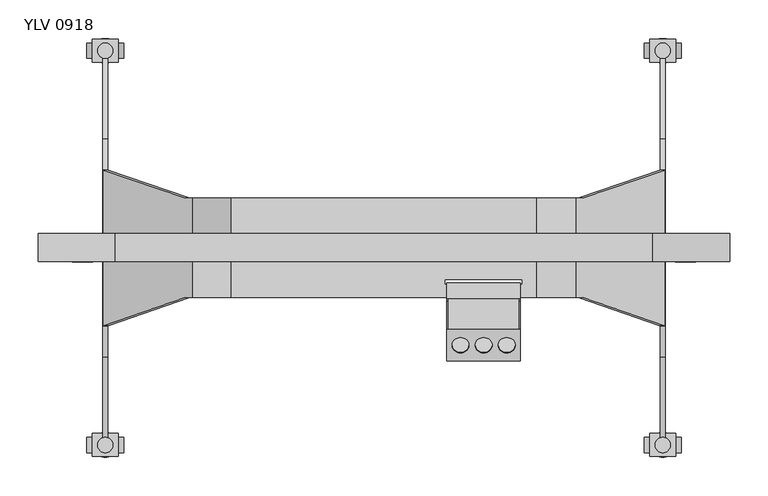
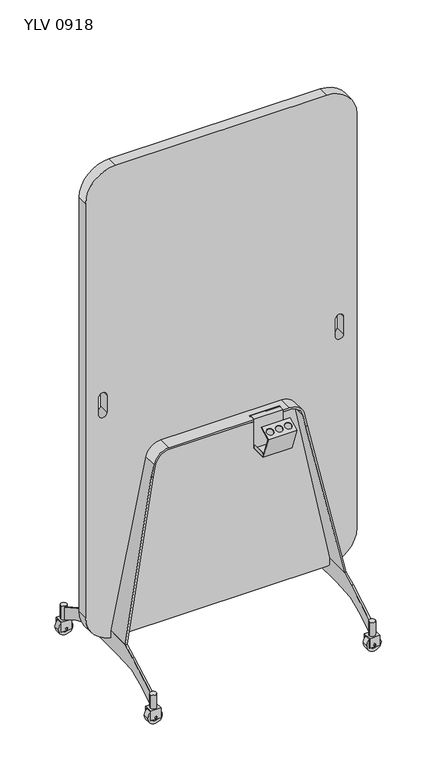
"""IFC4 building model written with IfcOpenShell, lengths in millimetres: furniture geometry, Mobiliário_Mobiliário de Escritório_LinhaYoung_Divisor Lousa Volante - YLV 0918_Marelli : YLV 0918."""

from ifc_helpers import new_model, si_unit, point, frame, frame_2d, origin, place, context, project, spatial, polyline, circle_curve, ellipse_curve, trimmed, segment, composite_curve, outline, extrude, source, transform, mapped, element, save
from ifc_brep_helpers import plane_surface, cylinder_surface, revolved_surface, advanced_brep


def ylv_0918_f138dd49(model_context):
    return source(origin(), model_context, "Body", "SolidModel", [
        extrude(outline(composite_curve([segment(trimmed(circle_curve(frame_2d((250.0, 800.0)), 100.0), [point((150.0, 800.0))], [point((250.0, 900.0))], False, "CARTESIAN"), True, "CONTINUOUS"), segment(polyline([(250.0, 900.0), (1700.0, 900.0)]), True, "CONTINUOUS"), segment(trimmed(circle_curve(frame_2d((1700.0, 800.0)), 100.0), [point((1700.0, 900.0))], [point((1800.0, 800.0))], False, "CARTESIAN"), True, "CONTINUOUS"), segment(polyline([(1800.0, 800.0), (1800.0, 100.0)]), True, "CONTINUOUS"), segment(trimmed(circle_curve(frame_2d((1700.0, 100.0)), 100.0), [point((1800.0, 100.0))], [point((1700.0, 0.0))], False, "CARTESIAN"), True, "CONTINUOUS"), segment(polyline([(1700.0, 0.0), (250.0, 0.0)]), True, "CONTINUOUS"), segment(trimmed(circle_curve(frame_2d((250.0, 100.0)), 100.0), [point((250.0, 0.0))], [point((150.0, 100.0))], False, "CARTESIAN"), True, "CONTINUOUS"), segment(polyline([(150.0, 100.0), (150.0, 800.0)]), True, "CONTINUOUS")], self_intersect=False), holes=[composite_curve([segment(trimmed(circle_curve(frame_2d((1004.6078371, 57.5)), 13.5), [point((1004.6078371, 44.0))], [point((1004.6078371, 71.0))], True, "CARTESIAN"), True, "CONTINUOUS"), segment(polyline([(1004.6078371, 71.0), (944.6078371, 71.0)]), True, "CONTINUOUS"), segment(trimmed(circle_curve(frame_2d((944.6078371, 57.5)), 13.5), [point((944.6078371, 71.0))], [point((944.6078371, 44.0))], True, "CARTESIAN"), True, "CONTINUOUS"), segment(polyline([(944.6078371, 44.0), (1004.6078371, 44.0)]), True, "CONTINUOUS")], self_intersect=False), composite_curve([segment(polyline([(1004.6078371, 856.0), (944.6078371, 856.0)]), True, "CONTINUOUS"), segment(trimmed(circle_curve(frame_2d((944.6078371, 842.5)), 13.5), [point((944.6078371, 856.0))], [point((944.6078371, 829.0))], True, "CARTESIAN"), True, "CONTINUOUS"), segment(polyline([(944.6078371, 829.0), (1004.6078371, 829.0)]), True, "CONTINUOUS"), segment(trimmed(circle_curve(frame_2d((1004.6078371, 842.5)), 13.5), [point((1004.6078371, 829.0))], [point((1004.6078371, 856.0))], True, "CARTESIAN"), True, "CONTINUOUS")], self_intersect=False)]), frame((0.0, -18.3158145, 0.0), z_axis=(0.0, 1.0, 0.0), x_axis=(0.0, 0.0, 1.0)), (0.0, 0.0, 1.0), 36.631629),
        extrude(outline(composite_curve([segment(polyline([(-142.6226909, 154.5892975), (-101.5349735, 176.0), (-18.3158145, 176.0), (-18.3158145, 150.0), (18.3158145, 150.0), (18.3158145, 176.0), (101.5349735, 176.0), (142.6226909, 154.5892975)]), True, "CONTINUOUS"), segment(trimmed(circle_curve(frame_2d((-859.6738473, -1768.8448754)), 2168.9161736), [point((142.6226909, 154.5892975))], [point((246.8924058, 96.5528022))], False, "CARTESIAN"), True, "CONTINUOUS"), segment(polyline([(246.8924058, 96.5528022), (246.8924058, 52.7598438)]), True, "CONTINUOUS"), segment(trimmed(circle_curve(frame_2d((-32.5386848, -345.4199526)), 486.4451508), [point((246.8924058, 52.7598438))], [point((136.8865532, 110.5668601))], True, "CARTESIAN"), True, "CONTINUOUS"), segment(trimmed(circle_curve(frame_2d((66.525728, -454.3601634)), 569.2918299), [point((136.8865532, 110.5668601))], [point((55.6013003, 114.8268397))], True, "CARTESIAN"), True, "CONTINUOUS"), segment(polyline([(55.6013003, 114.8268397), (-55.6013003, 114.8268397)]), True, "CONTINUOUS"), segment(trimmed(circle_curve(frame_2d((-66.525728, -454.3601634)), 569.2918299), [point((-55.6013003, 114.8268397))], [point((-136.8865532, 110.5668601))], True, "CARTESIAN"), True, "CONTINUOUS"), segment(trimmed(circle_curve(frame_2d((32.5386848, -345.4199526)), 486.4451508), [point((-136.8865532, 110.5668601))], [point((-246.8924058, 52.7598438))], True, "CARTESIAN"), True, "CONTINUOUS"), segment(polyline([(-246.8924058, 52.7598438), (-246.8924058, 96.5528022)]), True, "CONTINUOUS"), segment(trimmed(circle_curve(frame_2d((859.6738473, -1768.8448754)), 2168.9161736), [point((-246.8924058, 96.5528022))], [point((-142.6226909, 154.5892975))], False, "CARTESIAN"), True, "CONTINUOUS")], self_intersect=False)), frame((84.0, 0.0, 0.0), z_axis=(1.0, 0.0, 0.0), x_axis=(0.0, 1.0, 0.0)), (0.0, 0.0, 1.0), 6.122987),
        extrude(outline(composite_curve([segment(trimmed(circle_curve(frame_2d((812.9385065, 256.9155949)), 10.0231891), [point((802.9153174, 256.9155949))], [point((822.9616956, 256.9155949))], False, "CARTESIAN"), True, "CONTINUOUS"), segment(trimmed(circle_curve(frame_2d((812.9385065, 256.9155949)), 10.0231891), [point((822.9616956, 256.9155949))], [point((802.9153174, 256.9155949))], False, "CARTESIAN"), True, "CONTINUOUS")], self_intersect=False)), frame((0.0, 0.0, 51.0401028), z_axis=(0.0, 0.0, 1.0), x_axis=(1.0, 0.0, 0.0)), (0.0, 0.0, 1.0), 47.8824234),
        extrude(outline(composite_curve([segment(trimmed(circle_curve(frame_2d((812.9385065, -256.9155949)), 10.0231891), [point((802.9153174, -256.9155949))], [point((822.9616956, -256.9155949))], False, "CARTESIAN"), True, "CONTINUOUS"), segment(trimmed(circle_curve(frame_2d((812.9385065, -256.9155949)), 10.0231891), [point((822.9616956, -256.9155949))], [point((802.9153174, -256.9155949))], False, "CARTESIAN"), True, "CONTINUOUS")], self_intersect=False)), frame((0.0, 0.0, 51.0401028), z_axis=(0.0, 0.0, 1.0), x_axis=(1.0, 0.0, 0.0)), (0.0, 0.0, 1.0), 47.8824234),
        extrude(outline(composite_curve([segment(trimmed(circle_curve(frame_2d((87.0614935, 256.9155949)), 10.0231891), [point((97.0846826, 256.9155949))], [point((77.0383044, 256.9155949))], False, "CARTESIAN"), True, "CONTINUOUS"), segment(trimmed(circle_curve(frame_2d((87.0614935, 256.9155949)), 10.0231891), [point((77.0383044, 256.9155949))], [point((97.0846826, 256.9155949))], False, "CARTESIAN"), True, "CONTINUOUS")], self_intersect=False)), frame((0.0, 0.0, 51.0401028), z_axis=(0.0, 0.0, 1.0), x_axis=(1.0, 0.0, 0.0)), (0.0, 0.0, 1.0), 47.8824234),
        extrude(outline(composite_curve([segment(trimmed(circle_curve(frame_2d((87.0614935, -256.9155949)), 10.0231891), [point((97.0846826, -256.9155949))], [point((77.0383044, -256.9155949))], False, "CARTESIAN"), True, "CONTINUOUS"), segment(trimmed(circle_curve(frame_2d((87.0614935, -256.9155949)), 10.0231891), [point((77.0383044, -256.9155949))], [point((97.0846826, -256.9155949))], False, "CARTESIAN"), True, "CONTINUOUS")], self_intersect=False)), frame((0.0, 0.0, 51.0401028), z_axis=(0.0, 0.0, 1.0), x_axis=(1.0, 0.0, 0.0)), (0.0, 0.0, 1.0), 47.8824234),
        extrude(outline(polyline([(-269.7155949, 48.8401028), (-269.7155949, 17.3292423), (-271.9155949, 17.3292423), (-271.9155949, 51.0401028), (-241.9155949, 51.0401028), (-241.9155949, 17.3292423), (-244.1029428, 17.3292423), (-244.1029428, 48.8401028), (-269.7155949, 48.8401028)])), frame((70.0614935, 0.0, 0.0), z_axis=(1.0, 0.0, 0.0), x_axis=(0.0, 1.0, 0.0)), (0.0, 0.0, 1.0), 34.0),
        extrude(outline(polyline([(269.7155949, 48.8401028), (244.1029428, 48.8401028), (244.1029428, 17.3292423), (241.9155949, 17.3292423), (241.9155949, 51.0401028), (271.9155949, 51.0401028), (271.9155949, 17.3292423), (269.7155949, 17.3292423), (269.7155949, 48.8401028)])), frame((70.0614935, 0.0, 0.0), z_axis=(1.0, 0.0, 0.0), x_axis=(0.0, 1.0, 0.0)), (0.0, 0.0, 1.0), 34.0),
        extrude(outline(composite_curve([segment(polyline([(-142.6226909, 154.5892975), (-101.5349735, 176.0), (-18.3158145, 176.0), (-18.3158145, 150.0), (18.3158145, 150.0), (18.3158145, 176.0), (101.5349735, 176.0), (142.6226909, 154.5892975)]), True, "CONTINUOUS"), segment(trimmed(circle_curve(frame_2d((-859.6738473, -1768.8448754)), 2168.9161736), [point((142.6226909, 154.5892975))], [point((246.8924058, 96.5528022))], False, "CARTESIAN"), True, "CONTINUOUS"), segment(polyline([(246.8924058, 96.5528022), (246.8924058, 52.7598438)]), True, "CONTINUOUS"), segment(trimmed(circle_curve(frame_2d((-32.5386848, -345.4199526)), 486.4451508), [point((246.8924058, 52.7598438))], [point((136.8865532, 110.5668601))], True, "CARTESIAN"), True, "CONTINUOUS"), segment(trimmed(circle_curve(frame_2d((66.525728, -454.3601634)), 569.2918299), [point((136.8865532, 110.5668601))], [point((55.6013003, 114.8268397))], True, "CARTESIAN"), True, "CONTINUOUS"), segment(polyline([(55.6013003, 114.8268397), (-55.6013003, 114.8268397)]), True, "CONTINUOUS"), segment(trimmed(circle_curve(frame_2d((-66.525728, -454.3601634)), 569.2918299), [point((-55.6013003, 114.8268397))], [point((-136.8865532, 110.5668601))], True, "CARTESIAN"), True, "CONTINUOUS"), segment(trimmed(circle_curve(frame_2d((32.5386848, -345.4199526)), 486.4451508), [point((-136.8865532, 110.5668601))], [point((-246.8924058, 52.7598438))], True, "CARTESIAN"), True, "CONTINUOUS"), segment(polyline([(-246.8924058, 52.7598438), (-246.8924058, 96.5528022)]), True, "CONTINUOUS"), segment(trimmed(circle_curve(frame_2d((859.6738473, -1768.8448754)), 2168.9161736), [point((-246.8924058, 96.5528022))], [point((-142.6226909, 154.5892975))], False, "CARTESIAN"), True, "CONTINUOUS")], self_intersect=False)), frame((809.877013, 0.0, 0.0), z_axis=(1.0, 0.0, 0.0), x_axis=(0.0, 1.0, 0.0)), (0.0, 0.0, 1.0), 6.122987),
        extrude(outline(composite_curve([segment(trimmed(circle_curve(frame_2d((24.0, 87.0614935)), 24.0), [point((24.0, 63.0614935))], [point((24.0, 111.0614935))], False, "CARTESIAN"), True, "CONTINUOUS"), segment(trimmed(circle_curve(frame_2d((24.0, 87.0614935)), 24.0), [point((24.0, 111.0614935))], [point((24.0, 63.0614935))], False, "CARTESIAN"), True, "CONTINUOUS")], self_intersect=False), holes=[composite_curve([segment(trimmed(circle_curve(frame_2d((24.0, 87.0614935)), 14.0), [point((24.0, 73.0614935))], [point((24.0, 101.0614935))], True, "CARTESIAN"), True, "CONTINUOUS"), segment(trimmed(circle_curve(frame_2d((24.0, 87.0614935)), 14.0), [point((24.0, 101.0614935))], [point((24.0, 73.0614935))], True, "CARTESIAN"), True, "CONTINUOUS")], self_intersect=False)]), frame((0.0, -266.9155949, 0.0), z_axis=(0.0, 1.0, 0.0), x_axis=(0.0, 0.0, 1.0)), (0.0, 0.0, 1.0), 20.0),
        extrude(outline(composite_curve([segment(trimmed(circle_curve(frame_2d((24.0, 812.9385065)), 24.0), [point((24.0, 836.9385065))], [point((24.0, 788.9385065))], False, "CARTESIAN"), True, "CONTINUOUS"), segment(trimmed(circle_curve(frame_2d((24.0, 812.9385065)), 24.0), [point((24.0, 788.9385065))], [point((24.0, 836.9385065))], False, "CARTESIAN"), True, "CONTINUOUS")], self_intersect=False), holes=[composite_curve([segment(trimmed(circle_curve(frame_2d((24.0, 812.9385065)), 14.0), [point((24.0, 826.9385065))], [point((24.0, 798.9385065))], True, "CARTESIAN"), True, "CONTINUOUS"), segment(trimmed(circle_curve(frame_2d((24.0, 812.9385065)), 14.0), [point((24.0, 798.9385065))], [point((24.0, 826.9385065))], True, "CARTESIAN"), True, "CONTINUOUS")], self_intersect=False)]), frame((0.0, -266.9155949, 0.0), z_axis=(0.0, 1.0, 0.0), x_axis=(0.0, 0.0, 1.0)), (0.0, 0.0, 1.0), 20.0),
        extrude(outline(polyline([(-269.7155949, 48.8401028), (-269.7155949, 17.3292423), (-271.9155949, 17.3292423), (-271.9155949, 51.0401028), (-241.9155949, 51.0401028), (-241.9155949, 17.3292423), (-244.1029428, 17.3292423), (-244.1029428, 48.8401028), (-269.7155949, 48.8401028)])), frame((795.9385065, 0.0, 0.0), z_axis=(1.0, 0.0, 0.0), x_axis=(0.0, 1.0, 0.0)), (0.0, 0.0, 1.0), 34.0),
        extrude(outline(polyline([(269.7155949, 48.8401028), (244.1029428, 48.8401028), (244.1029428, 17.3292423), (241.9155949, 17.3292423), (241.9155949, 51.0401028), (271.9155949, 51.0401028), (271.9155949, 17.3292423), (269.7155949, 17.3292423), (269.7155949, 48.8401028)])), frame((795.9385065, 0.0, 0.0), z_axis=(1.0, 0.0, 0.0), x_axis=(0.0, 1.0, 0.0)), (0.0, 0.0, 1.0), 34.0),
        extrude(outline(composite_curve([segment(trimmed(circle_curve(frame_2d((24.0, 87.0614935)), 24.0), [point((24.0, 63.0614935))], [point((24.0, 111.0614935))], False, "CARTESIAN"), True, "CONTINUOUS"), segment(trimmed(circle_curve(frame_2d((24.0, 87.0614935)), 24.0), [point((24.0, 111.0614935))], [point((24.0, 63.0614935))], False, "CARTESIAN"), True, "CONTINUOUS")], self_intersect=False), holes=[composite_curve([segment(trimmed(circle_curve(frame_2d((24.0, 87.0614935)), 14.0), [point((24.0, 73.0614935))], [point((24.0, 101.0614935))], True, "CARTESIAN"), True, "CONTINUOUS"), segment(trimmed(circle_curve(frame_2d((24.0, 87.0614935)), 14.0), [point((24.0, 101.0614935))], [point((24.0, 73.0614935))], True, "CARTESIAN"), True, "CONTINUOUS")], self_intersect=False)]), frame((0.0, 246.9155949, 0.0), z_axis=(0.0, 1.0, 0.0), x_axis=(0.0, 0.0, 1.0)), (0.0, 0.0, 1.0), 20.0),
        extrude(outline(composite_curve([segment(trimmed(circle_curve(frame_2d((24.0, 812.9385065)), 24.0), [point((24.0, 836.9385065))], [point((24.0, 788.9385065))], False, "CARTESIAN"), True, "CONTINUOUS"), segment(trimmed(circle_curve(frame_2d((24.0, 812.9385065)), 24.0), [point((24.0, 788.9385065))], [point((24.0, 836.9385065))], False, "CARTESIAN"), True, "CONTINUOUS")], self_intersect=False), holes=[composite_curve([segment(trimmed(circle_curve(frame_2d((24.0, 812.9385065)), 14.0), [point((24.0, 826.9385065))], [point((24.0, 798.9385065))], True, "CARTESIAN"), True, "CONTINUOUS"), segment(trimmed(circle_curve(frame_2d((24.0, 812.9385065)), 14.0), [point((24.0, 798.9385065))], [point((24.0, 826.9385065))], True, "CARTESIAN"), True, "CONTINUOUS")], self_intersect=False)]), frame((0.0, 246.9155949, 0.0), z_axis=(0.0, 1.0, 0.0), x_axis=(0.0, 0.0, 1.0)), (0.0, 0.0, 1.0), 20.0),
        advanced_brep(
        [(87.0614935, 271.9155949, 18.43548), (87.0614935, 271.9155949, 29.56452), (87.0614935, 272.7646721, 24.0), (87.0614935, 271.9155949, 24.0)],
        [
            (0, 1, circle_curve(frame((87.0614935, 271.9155949, 24.0), z_axis=(0.0, 1.0, 0.0), x_axis=(0.0, 0.0, 1.0)), 5.56452)),
            (1, 2, circle_curve(frame((87.0614935, 257.0883533, 24.4550261), z_axis=(-1.0, 0.0, 0.0), x_axis=(0.0, 1.0, 0.0)), 15.6829213)),
            (2, 0, circle_curve(frame((87.0614935, 257.0883533, 23.5449739), z_axis=(-1.0, 0.0, 0.0), x_axis=(0.0, 1.0, 0.0)), 15.6829213)),
            (1, 0, circle_curve(frame((87.0614935, 271.9155949, 24.0), z_axis=(0.0, 1.0, 0.0), x_axis=(0.0, 0.0, 1.0)), 5.56452)),
            (3, 1),
            (0, 3),
        ],
        [
            revolved_surface(trimmed(ellipse_curve(frame((87.0614935, 257.0883533, 24.4550261), z_axis=(1.0, 0.0, 0.0), x_axis=(0.0, 1.0, 0.0)), 15.6829213, 15.6829213), [point((87.0614935, 272.7646721, 24.0))], [point((87.0614935, 271.9155949, 29.56452))], True, "CARTESIAN"), (87.0614935, 272.7646721, 24.0), (0.0, -1.0, 0.0)),
            plane_surface(frame((87.0614935, 271.9155949, 24.0), z_axis=(0.0, -1.0, 0.0), x_axis=(0.0, 0.0, 1.0))),
        ],
        [
            (0, [[1, 2, 3]]),
            (0, [[4, -3, -2]]),
            (1, [[5, -1, 6]]),
            (1, [[-6, -4, -5]]),
        ],
    ),
        advanced_brep(
        [(812.9385065, 271.9155949, 18.43548), (812.9385065, 271.9155949, 29.56452), (812.9385065, 272.7646721, 24.0), (812.9385065, 271.9155949, 24.0)],
        [
            (0, 1, circle_curve(frame((812.9385065, 271.9155949, 24.0), z_axis=(0.0, 1.0, 0.0), x_axis=(0.0, 0.0, 1.0)), 5.56452)),
            (1, 2, circle_curve(frame((812.9385065, 257.0883533, 24.4550261), z_axis=(-1.0, 0.0, 0.0), x_axis=(0.0, 1.0, 0.0)), 15.6829213)),
            (2, 0, circle_curve(frame((812.9385065, 257.0883533, 23.5449739), z_axis=(-1.0, 0.0, 0.0), x_axis=(0.0, 1.0, 0.0)), 15.6829213)),
            (1, 0, circle_curve(frame((812.9385065, 271.9155949, 24.0), z_axis=(0.0, 1.0, 0.0), x_axis=(0.0, 0.0, 1.0)), 5.56452)),
            (3, 1),
            (0, 3),
        ],
        [
            revolved_surface(trimmed(ellipse_curve(frame((812.9385065, 257.0883533, 24.4550261), z_axis=(1.0, 0.0, 0.0), x_axis=(0.0, 1.0, 0.0)), 15.6829213, 15.6829213), [point((812.9385065, 272.7646721, 24.0))], [point((812.9385065, 271.9155949, 29.56452))], True, "CARTESIAN"), (812.9385065, 272.7646721, 24.0), (0.0, -1.0, 0.0)),
            plane_surface(frame((812.9385065, 271.9155949, 24.0), z_axis=(0.0, -1.0, 0.0), x_axis=(0.0, 0.0, 1.0))),
        ],
        [
            (0, [[1, 2, 3]]),
            (0, [[4, -3, -2]]),
            (1, [[5, -1, 6]]),
            (1, [[-6, -4, -5]]),
        ],
    ),
        advanced_brep(
        [(87.0614935, 241.0665176, 24.0), (87.0614935, 241.9155949, 29.56452), (87.0614935, 241.9155949, 18.43548), (87.0614935, 241.9155949, 24.0)],
        [
            (0, 1, circle_curve(frame((87.0614935, 256.7428364, 24.4550261), z_axis=(-1.0, 0.0, 0.0), x_axis=(0.0, -1.0, 0.0)), 15.6829213)),
            (1, 2, circle_curve(frame((87.0614935, 241.9155949, 24.0), z_axis=(0.0, -1.0, 0.0), x_axis=(0.0, 0.0, 1.0)), 5.56452)),
            (2, 0, circle_curve(frame((87.0614935, 256.7428364, 23.5449739), z_axis=(-1.0, 0.0, 0.0), x_axis=(0.0, -1.0, 0.0)), 15.6829213)),
            (2, 1, circle_curve(frame((87.0614935, 241.9155949, 24.0), z_axis=(0.0, -1.0, 0.0), x_axis=(0.0, 0.0, 1.0)), 5.56452)),
            (1, 3),
            (3, 2),
        ],
        [
            revolved_surface(trimmed(ellipse_curve(frame((87.0614935, 256.7428364, 24.4550261), z_axis=(1.0, 0.0, 0.0), x_axis=(0.0, -1.0, 0.0)), 15.6829213, 15.6829213), [point((87.0614935, 241.9155949, 29.56452))], [point((87.0614935, 241.0665176, 24.0))], True, "CARTESIAN"), (87.0614935, 241.0665176, 24.0), (0.0, -1.0, 0.0)),
            plane_surface(frame((87.0614935, 241.9155949, 24.0), z_axis=(0.0, 1.0, 0.0), x_axis=(0.0, 0.0, 1.0))),
        ],
        [
            (0, [[1, 2, 3]]),
            (0, [[-3, 4, -1]]),
            (1, [[-2, 5, 6]]),
            (1, [[-4, -6, -5]]),
        ],
    ),
        advanced_brep(
        [(812.9385065, 241.0665176, 24.0), (812.9385065, 241.9155949, 29.56452), (812.9385065, 241.9155949, 18.43548), (812.9385065, 241.9155949, 24.0)],
        [
            (0, 1, circle_curve(frame((812.9385065, 256.7428364, 24.4550261), z_axis=(-1.0, 0.0, 0.0), x_axis=(0.0, -1.0, 0.0)), 15.6829213)),
            (1, 2, circle_curve(frame((812.9385065, 241.9155949, 24.0), z_axis=(0.0, -1.0, 0.0), x_axis=(0.0, 0.0, 1.0)), 5.56452)),
            (2, 0, circle_curve(frame((812.9385065, 256.7428364, 23.5449739), z_axis=(-1.0, 0.0, 0.0), x_axis=(0.0, -1.0, 0.0)), 15.6829213)),
            (2, 1, circle_curve(frame((812.9385065, 241.9155949, 24.0), z_axis=(0.0, -1.0, 0.0), x_axis=(0.0, 0.0, 1.0)), 5.56452)),
            (1, 3),
            (3, 2),
        ],
        [
            revolved_surface(trimmed(ellipse_curve(frame((812.9385065, 256.7428364, 24.4550261), z_axis=(1.0, 0.0, 0.0), x_axis=(0.0, -1.0, 0.0)), 15.6829213, 15.6829213), [point((812.9385065, 241.9155949, 29.56452))], [point((812.9385065, 241.0665176, 24.0))], True, "CARTESIAN"), (812.9385065, 241.0665176, 24.0), (0.0, -1.0, 0.0)),
            plane_surface(frame((812.9385065, 241.9155949, 24.0), z_axis=(0.0, 1.0, 0.0), x_axis=(0.0, 0.0, 1.0))),
        ],
        [
            (0, [[1, 2, 3]]),
            (0, [[-3, 4, -1]]),
            (1, [[-2, 5, 6]]),
            (1, [[-4, -6, -5]]),
        ],
    ),
        advanced_brep(
        [(87.0614935, -272.7646721, 24.0), (87.0614935, -271.9155949, 29.56452), (87.0614935, -271.9155949, 18.43548), (87.0614935, -271.9155949, 24.0)],
        [
            (0, 1, circle_curve(frame((87.0614935, -257.0883533, 24.4550261), z_axis=(-1.0, 0.0, 0.0), x_axis=(0.0, -1.0, 0.0)), 15.6829213)),
            (1, 2, circle_curve(frame((87.0614935, -271.9155949, 24.0), z_axis=(0.0, -1.0, 0.0), x_axis=(0.0, 0.0, 1.0)), 5.56452)),
            (2, 0, circle_curve(frame((87.0614935, -257.0883533, 23.5449739), z_axis=(-1.0, 0.0, 0.0), x_axis=(0.0, -1.0, 0.0)), 15.6829213)),
            (2, 1, circle_curve(frame((87.0614935, -271.9155949, 24.0), z_axis=(0.0, -1.0, 0.0), x_axis=(0.0, 0.0, 1.0)), 5.56452)),
            (1, 3),
            (3, 2),
        ],
        [
            revolved_surface(trimmed(ellipse_curve(frame((87.0614935, -257.0883533, 24.4550261), z_axis=(1.0, 0.0, 0.0), x_axis=(0.0, -1.0, 0.0)), 15.6829213, 15.6829213), [point((87.0614935, -271.9155949, 29.56452))], [point((87.0614935, -272.7646721, 24.0))], True, "CARTESIAN"), (87.0614935, -272.7646721, 24.0), (0.0, -1.0, 0.0)),
            plane_surface(frame((87.0614935, -271.9155949, 24.0), z_axis=(0.0, 1.0, 0.0), x_axis=(0.0, 0.0, 1.0))),
        ],
        [
            (0, [[1, 2, 3]]),
            (0, [[-3, 4, -1]]),
            (1, [[-2, 5, 6]]),
            (1, [[-4, -6, -5]]),
        ],
    ),
        advanced_brep(
        [(812.9385065, -272.7646721, 24.0), (812.9385065, -271.9155949, 29.56452), (812.9385065, -271.9155949, 18.43548), (812.9385065, -271.9155949, 24.0)],
        [
            (0, 1, circle_curve(frame((812.9385065, -257.0883533, 24.4550261), z_axis=(-1.0, 0.0, 0.0), x_axis=(0.0, -1.0, 0.0)), 15.6829213)),
            (1, 2, circle_curve(frame((812.9385065, -271.9155949, 24.0), z_axis=(0.0, -1.0, 0.0), x_axis=(0.0, 0.0, 1.0)), 5.56452)),
            (2, 0, circle_curve(frame((812.9385065, -257.0883533, 23.5449739), z_axis=(-1.0, 0.0, 0.0), x_axis=(0.0, -1.0, 0.0)), 15.6829213)),
            (2, 1, circle_curve(frame((812.9385065, -271.9155949, 24.0), z_axis=(0.0, -1.0, 0.0), x_axis=(0.0, 0.0, 1.0)), 5.56452)),
            (1, 3),
            (3, 2),
        ],
        [
            revolved_surface(trimmed(ellipse_curve(frame((812.9385065, -257.0883533, 24.4550261), z_axis=(1.0, 0.0, 0.0), x_axis=(0.0, -1.0, 0.0)), 15.6829213, 15.6829213), [point((812.9385065, -271.9155949, 29.56452))], [point((812.9385065, -272.7646721, 24.0))], True, "CARTESIAN"), (812.9385065, -272.7646721, 24.0), (0.0, -1.0, 0.0)),
            plane_surface(frame((812.9385065, -271.9155949, 24.0), z_axis=(0.0, 1.0, 0.0), x_axis=(0.0, 0.0, 1.0))),
        ],
        [
            (0, [[1, 2, 3]]),
            (0, [[-3, 4, -1]]),
            (1, [[-2, 5, 6]]),
            (1, [[-4, -6, -5]]),
        ],
    ),
        advanced_brep(
        [(87.0614935, -241.9155949, 18.43548), (87.0614935, -241.9155949, 29.56452), (87.0614935, -241.0665176, 24.0), (87.0614935, -241.9155949, 24.0)],
        [
            (0, 1, circle_curve(frame((87.0614935, -241.9155949, 24.0), z_axis=(0.0, 1.0, 0.0), x_axis=(0.0, 0.0, 1.0)), 5.56452)),
            (1, 2, circle_curve(frame((87.0614935, -256.7428364, 24.4550261), z_axis=(-1.0, 0.0, 0.0), x_axis=(0.0, 1.0, 0.0)), 15.6829213)),
            (2, 0, circle_curve(frame((87.0614935, -256.7428364, 23.5449739), z_axis=(-1.0, 0.0, 0.0), x_axis=(0.0, 1.0, 0.0)), 15.6829213)),
            (1, 0, circle_curve(frame((87.0614935, -241.9155949, 24.0), z_axis=(0.0, 1.0, 0.0), x_axis=(0.0, 0.0, 1.0)), 5.56452)),
            (3, 1),
            (0, 3),
        ],
        [
            revolved_surface(trimmed(ellipse_curve(frame((87.0614935, -256.7428364, 24.4550261), z_axis=(1.0, 0.0, 0.0), x_axis=(0.0, 1.0, 0.0)), 15.6829213, 15.6829213), [point((87.0614935, -241.0665176, 24.0))], [point((87.0614935, -241.9155949, 29.56452))], True, "CARTESIAN"), (87.0614935, -241.0665176, 24.0), (0.0, -1.0, 0.0)),
            plane_surface(frame((87.0614935, -241.9155949, 24.0), z_axis=(0.0, -1.0, 0.0), x_axis=(0.0, 0.0, 1.0))),
        ],
        [
            (0, [[1, 2, 3]]),
            (0, [[4, -3, -2]]),
            (1, [[5, -1, 6]]),
            (1, [[-6, -4, -5]]),
        ],
    ),
        advanced_brep(
        [(812.9385065, -241.9155949, 18.43548), (812.9385065, -241.9155949, 29.56452), (812.9385065, -241.0665176, 24.0), (812.9385065, -241.9155949, 24.0)],
        [
            (0, 1, circle_curve(frame((812.9385065, -241.9155949, 24.0), z_axis=(0.0, 1.0, 0.0), x_axis=(0.0, 0.0, 1.0)), 5.56452)),
            (1, 2, circle_curve(frame((812.9385065, -256.7428364, 24.4550261), z_axis=(-1.0, 0.0, 0.0), x_axis=(0.0, 1.0, 0.0)), 15.6829213)),
            (2, 0, circle_curve(frame((812.9385065, -256.7428364, 23.5449739), z_axis=(-1.0, 0.0, 0.0), x_axis=(0.0, 1.0, 0.0)), 15.6829213)),
            (1, 0, circle_curve(frame((812.9385065, -241.9155949, 24.0), z_axis=(0.0, 1.0, 0.0), x_axis=(0.0, 0.0, 1.0)), 5.56452)),
            (3, 1),
            (0, 3),
        ],
        [
            revolved_surface(trimmed(ellipse_curve(frame((812.9385065, -256.7428364, 24.4550261), z_axis=(1.0, 0.0, 0.0), x_axis=(0.0, 1.0, 0.0)), 15.6829213, 15.6829213), [point((812.9385065, -241.0665176, 24.0))], [point((812.9385065, -241.9155949, 29.56452))], True, "CARTESIAN"), (812.9385065, -241.0665176, 24.0), (0.0, -1.0, 0.0)),
            plane_surface(frame((812.9385065, -241.9155949, 24.0), z_axis=(0.0, -1.0, 0.0), x_axis=(0.0, 0.0, 1.0))),
        ],
        [
            (0, [[1, 2, 3]]),
            (0, [[4, -3, -2]]),
            (1, [[5, -1, 6]]),
            (1, [[-6, -4, -5]]),
        ],
    ),
        extrude(outline(composite_curve([segment(trimmed(circle_curve(frame_2d((24.0, 87.0614935)), 2.9989542), [point((24.0, 84.0625393))], [point((24.0, 90.0604477))], False, "CARTESIAN"), True, "CONTINUOUS"), segment(trimmed(circle_curve(frame_2d((24.0, 87.0614935)), 2.9989542), [point((24.0, 90.0604477))], [point((24.0, 84.0625393))], False, "CARTESIAN"), True, "CONTINUOUS")], self_intersect=False)), frame((0.0, -269.7155949, 0.0), z_axis=(0.0, 1.0, 0.0), x_axis=(0.0, 0.0, 1.0)), (0.0, 0.0, 1.0), 25.6126521),
        extrude(outline(composite_curve([segment(trimmed(circle_curve(frame_2d((24.0, 87.0614935)), 2.9989542), [point((24.0, 84.0625393))], [point((24.0, 90.0604477))], False, "CARTESIAN"), True, "CONTINUOUS"), segment(trimmed(circle_curve(frame_2d((24.0, 87.0614935)), 2.9989542), [point((24.0, 90.0604477))], [point((24.0, 84.0625393))], False, "CARTESIAN"), True, "CONTINUOUS")], self_intersect=False)), frame((0.0, 244.1029428, 0.0), z_axis=(0.0, 1.0, 0.0), x_axis=(0.0, 0.0, 1.0)), (0.0, 0.0, 1.0), 25.6126521),
        extrude(outline(composite_curve([segment(trimmed(circle_curve(frame_2d((24.0, 812.9385065)), 2.9989542), [point((24.0, 815.9374607))], [point((24.0, 809.9395523))], False, "CARTESIAN"), True, "CONTINUOUS"), segment(trimmed(circle_curve(frame_2d((24.0, 812.9385065)), 2.9989542), [point((24.0, 809.9395523))], [point((24.0, 815.9374607))], False, "CARTESIAN"), True, "CONTINUOUS")], self_intersect=False)), frame((0.0, 244.1029428, 0.0), z_axis=(0.0, 1.0, 0.0), x_axis=(0.0, 0.0, 1.0)), (0.0, 0.0, 1.0), 25.6126521),
        extrude(outline(composite_curve([segment(trimmed(circle_curve(frame_2d((24.0, 812.9385065)), 2.9989542), [point((24.0, 815.9374607))], [point((24.0, 809.9395523))], False, "CARTESIAN"), True, "CONTINUOUS"), segment(trimmed(circle_curve(frame_2d((24.0, 812.9385065)), 2.9989542), [point((24.0, 809.9395523))], [point((24.0, 815.9374607))], False, "CARTESIAN"), True, "CONTINUOUS")], self_intersect=False)), frame((0.0, -269.7155949, 0.0), z_axis=(0.0, 1.0, 0.0), x_axis=(0.0, 0.0, 1.0)), (0.0, 0.0, 1.0), 25.6126521),
        extrude(outline(composite_curve([segment(polyline([(-65.8517187, 695.1281254), (-65.8517187, 686.3727862), (-116.5128237, 686.3727862), (-116.5128237, 695.1281254)]), True, "CONTINUOUS"), segment(trimmed(circle_curve(frame_2d((-113.2681629, 695.1281254)), 3.2446608), [point((-116.5128237, 695.1281254))], [point((-113.2681629, 698.3727862))], False, "CARTESIAN"), True, "CONTINUOUS"), segment(polyline([(-113.2681629, 698.3727862), (-69.0963795, 698.3727862)]), True, "CONTINUOUS"), segment(trimmed(circle_curve(frame_2d((-69.0963795, 695.1281254)), 3.2446608), [point((-69.0963795, 698.3727862))], [point((-65.8517187, 695.1281254))], False, "CARTESIAN"), True, "CONTINUOUS")], self_intersect=False)), frame((626.4001936, 0.0, 0.0), z_axis=(1.0, 0.0, 0.0), x_axis=(0.0, 1.0, 0.0)), (0.0, 0.0, 1.0), 0.9998064),
        advanced_brep(
        [(700.0, -18.3158145, 746.0), (816.0, -18.3158145, 176.0), (809.877013, -18.3158145, 176.0), (694.1428521, -18.3158145, 744.693722), (649.1885297, -18.3158145, 780.0), (250.8114703, -18.3158145, 780.0), (205.8571479, -18.3158145, 744.693722), (90.122987, -18.3158145, 176.0), (84.0, -18.3158145, 176.0), (200.0, -18.3158145, 746.0), (250.8114703, -18.3158145, 786.0), (649.1885297, -18.3158145, 786.0), (649.1885297, -64.8517187, 786.0), (700.0, -64.8517187, 746.0), (250.8114703, -64.8517187, 786.0), (629.5001936, -41.8517187, 786.0), (629.5001936, -46.8517187, 786.0), (529.5001936, -46.8517187, 786.0), (529.5001936, -41.8517187, 786.0), (200.0, -64.8517187, 746.0), (84.0, -101.5349735, 176.0), (191.0618226, -64.8517187, 702.0796458), (90.122987, -101.5349735, 176.0), (205.8571479, -64.8517187, 744.693722), (197.1848096, -64.8517187, 702.0796458), (250.8114703, -64.8517187, 780.0), (649.1885297, -64.8517187, 780.0), (629.5001936, -46.8517187, 780.0), (629.5001936, -41.8517187, 780.0), (529.5001936, -41.8517187, 780.0), (529.5001936, -46.8517187, 780.0), (694.1428521, -64.8517187, 744.693722), (809.877013, -101.5349735, 176.0), (702.8151904, -64.8517187, 702.0796458), (816.0, -101.5349735, 176.0), (708.9381774, -64.8517187, 702.0796458)],
        [
            (0, 1),
            (1, 2),
            (2, 3),
            (3, 4, circle_curve(frame((649.1885297, -18.3158145, 733.7274311), z_axis=(0.0, -1.0, 0.0), x_axis=(1.0, 0.0, 0.0)), 46.2725689)),
            (4, 5),
            (5, 6, circle_curve(frame((250.8114703, -18.3158145, 733.7274311), z_axis=(0.0, -1.0, 0.0), x_axis=(-1.0, 0.0, 0.0)), 46.2725689)),
            (6, 7),
            (7, 8),
            (8, 9),
            (9, 10, circle_curve(frame((250.8114703, -18.3158145, 733.7274311), z_axis=(0.0, 1.0, 0.0), x_axis=(-1.0, 0.0, 0.0)), 52.2725689)),
            (10, 11),
            (11, 0, circle_curve(frame((649.1885297, -18.3158145, 733.7274311), z_axis=(0.0, 1.0, 0.0), x_axis=(1.0, 0.0, 0.0)), 52.2725689)),
            (11, 12),
            (12, 13, circle_curve(frame((649.1885297, -64.8517187, 733.7274311), z_axis=(0.0, 1.0, 0.0), x_axis=(1.0, 0.0, 0.0)), 52.2725689)),
            (13, 0),
            (10, 14),
            (14, 12),
            (15, 16),
            (16, 17),
            (17, 18),
            (18, 15),
            (9, 19),
            (19, 14, circle_curve(frame((250.8114703, -64.8517187, 733.7274311), z_axis=(0.0, 1.0, 0.0), x_axis=(-1.0, 0.0, 0.0)), 52.2725689)),
            (8, 20),
            (20, 21),
            (21, 19),
            (7, 22),
            (22, 20),
            (6, 23),
            (23, 24),
            (24, 22),
            (5, 25),
            (25, 23, circle_curve(frame((250.8114703, -64.8517187, 733.7274311), z_axis=(0.0, -1.0, 0.0), x_axis=(-1.0, 0.0, 0.0)), 46.2725689)),
            (4, 26),
            (26, 25),
            (27, 28),
            (28, 29),
            (29, 30),
            (30, 27),
            (3, 31),
            (31, 26, circle_curve(frame((649.1885297, -64.8517187, 733.7274311), z_axis=(0.0, -1.0, 0.0), x_axis=(1.0, 0.0, 0.0)), 46.2725689)),
            (2, 32),
            (32, 33),
            (33, 31),
            (1, 34),
            (34, 32),
            (13, 35),
            (35, 34),
            (24, 21),
            (35, 33),
            (27, 16),
            (15, 28),
            (18, 29),
            (17, 30),
        ],
        [
            plane_surface(frame((701.4610986, -18.3158145, 733.7274311), z_axis=(0.0, 1.0, 0.0), x_axis=(0.0, 0.0, -1.0))),
            cylinder_surface(frame((649.1885297, -18.3158145, 733.7274311), z_axis=(0.0, -1.0, 0.0), x_axis=(1.0, 0.0, 0.0)), 52.2725689),
            plane_surface(frame((649.1885297, -101.5349735, 786.0), z_axis=(0.0, 0.0, 1.0), x_axis=(0.0, 1.0, 0.0))),
            cylinder_surface(frame((250.8114703, -18.3158145, 733.7274311), z_axis=(0.0, -1.0, 0.0), x_axis=(-1.0, 0.0, 0.0)), 52.2725689),
            plane_surface(frame((200.0, -101.5349735, 746.0), z_axis=(-0.9799138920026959, 0.0, 0.19942107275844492), x_axis=(0.0, 1.0, 0.0))),
            plane_surface(frame((84.0, -101.5349735, 176.0), z_axis=(0.0, 0.0, -1.0), x_axis=(0.0, 1.0, 0.0))),
            plane_surface(frame((90.122987, -101.5349735, 176.0), z_axis=(0.9799138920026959, 0.0, -0.19942107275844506), x_axis=(0.0, 1.0, 0.0))),
            revolved_surface(polyline([(204.5389014, -18.3158145, 733.7274311), (204.5389014, -64.8517187, 733.7274311)]), (250.8114703, -18.3158145, 733.7274311), (0.0, 1.0, 0.0)),
            plane_surface(frame((250.8114703, -101.5349735, 780.0), z_axis=(0.0, 0.0, -1.0), x_axis=(0.0, 1.0, 0.0))),
            revolved_surface(polyline([(695.4610986, -18.3158145, 733.7274311), (695.4610986, -64.8517187, 733.7274311)]), (649.1885297, -18.3158145, 733.7274311), (0.0, 1.0, 0.0)),
            plane_surface(frame((694.1428521, -101.5349735, 744.693722), z_axis=(-0.9799138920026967, 0.0, -0.19942107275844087), x_axis=(0.0, 1.0, 0.0))),
            plane_surface(frame((809.877013, -101.5349735, 176.0), z_axis=(0.0, 0.0, -1.0), x_axis=(0.0, 1.0, 0.0))),
            plane_surface(frame((816.0, -101.5349735, 176.0), z_axis=(0.9799138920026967, 0.0, 0.19942107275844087), x_axis=(0.0, 1.0, 0.0))),
            plane_surface(frame((1023.1449812, -101.5350825, 176.0043206), z_axis=(0.0, -0.997577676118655, 0.06956134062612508), x_axis=(-1.0, 0.0, 0.0))),
            plane_surface(frame((1023.1449812, -64.8517187, 702.0796458), z_axis=(0.0, -1.0, 0.0), x_axis=(-1.0, 0.0, 0.0))),
            plane_surface(frame((629.5001936, -46.8517187, 873.4666605), z_axis=(-1.0, 0.0, 0.0), x_axis=(0.0, 0.0, -1.0))),
            plane_surface(frame((629.5001936, -41.8517187, 873.4666605), z_axis=(0.0, -1.0, 0.0), x_axis=(0.0, 0.0, -1.0))),
            plane_surface(frame((529.5001936, -41.8517187, 873.4666605), z_axis=(1.0, 0.0, 0.0), x_axis=(0.0, 0.0, -1.0))),
            plane_surface(frame((529.5001936, -46.8517187, 873.4666605), z_axis=(0.0, 1.0, 0.0), x_axis=(0.0, 0.0, -1.0))),
        ],
        [
            (0, [[1, 2, 3, 4, 5, 6, 7, 8, 9, 10, 11, 12]]),
            (1, [[-12, 13, 14, 15]]),
            (2, [[-11, 16, 17, -13], [18, 19, 20, 21]]),
            (3, [[-10, 22, 23, -16]]),
            (4, [[-9, 24, 25, 26, -22]]),
            (5, [[-8, 27, 28, -24]]),
            (6, [[-7, 29, 30, 31, -27]]),
            (7, [[-6, 32, 33, -29]]),
            (8, [[-5, 34, 35, -32], [36, 37, 38, 39]]),
            (9, [[-4, 40, 41, -34]]),
            (10, [[-3, 42, 43, 44, -40]]),
            (11, [[-2, 45, 46, -42]]),
            (12, [[-1, -15, 47, 48, -45]]),
            (13, [[49, -25, -28, -31]]),
            (13, [[50, -43, -46, -48]]),
            (14, [[-49, -30, -33, -35, -41, -44, -50, -47, -14, -17, -23, -26]]),
            (15, [[51, -18, 52, -36]]),
            (16, [[-52, -21, 53, -37]]),
            (17, [[-53, -20, 54, -38]]),
            (18, [[-51, -39, -54, -19]]),
        ],
    ),
        advanced_brep(
        [(197.1848096, 64.8517187, 702.0796458), (191.0618226, 64.8517187, 702.0796458), (200.0, 64.8517187, 746.0), (250.8114703, 64.8517187, 786.0), (649.1885297, 64.8517187, 786.0), (700.0, 64.8517187, 746.0), (708.9381774, 64.8517187, 702.0796458), (702.8151904, 64.8517187, 702.0796458), (694.1428521, 64.8517187, 744.693722), (649.1885297, 64.8517187, 780.0), (250.8114703, 64.8517187, 780.0), (205.8571479, 64.8517187, 744.693722), (90.1241844, 101.5349735, 176.0058838), (84.0, 101.5353838, 176.0), (815.9988026, 101.5349735, 176.0058838), (809.877013, 101.5353838, 176.0), (700.0, 18.3158145, 746.0), (649.1885297, 18.3158145, 786.0), (250.8114703, 18.3158145, 786.0), (200.0, 18.3158145, 746.0), (84.0, 18.3158145, 176.0), (90.122987, 18.3158145, 176.0), (205.8571479, 18.3158145, 744.693722), (250.8114703, 18.3158145, 780.0), (649.1885297, 18.3158145, 780.0), (694.1428521, 18.3158145, 744.693722), (809.877013, 18.3158145, 176.0), (816.0, 18.3158145, 176.0)],
        [
            (0, 1),
            (1, 2),
            (2, 3, circle_curve(frame((250.8114703, 64.8517187, 733.7274311), z_axis=(0.0, 1.0, 0.0), x_axis=(-1.0, 0.0, 0.0)), 52.2725689)),
            (3, 4),
            (4, 5, circle_curve(frame((649.1885297, 64.8517187, 733.7274311), z_axis=(0.0, 1.0, 0.0), x_axis=(1.0, 0.0, 0.0)), 52.2725689)),
            (5, 6),
            (6, 7),
            (7, 8),
            (8, 9, circle_curve(frame((649.1885297, 64.8517187, 733.7274311), z_axis=(0.0, -1.0, 0.0), x_axis=(1.0, 0.0, 0.0)), 46.2725689)),
            (9, 10),
            (10, 11, circle_curve(frame((250.8114703, 64.8517187, 733.7274311), z_axis=(0.0, -1.0, 0.0), x_axis=(-1.0, 0.0, 0.0)), 46.2725689)),
            (11, 0),
            (0, 12),
            (12, 13),
            (13, 1),
            (6, 14),
            (14, 15),
            (15, 7),
            (16, 17, circle_curve(frame((649.1885297, 18.3158145, 733.7274311), z_axis=(0.0, -1.0, 0.0), x_axis=(1.0, 0.0, 0.0)), 52.2725689)),
            (17, 18),
            (18, 19, circle_curve(frame((250.8114703, 18.3158145, 733.7274311), z_axis=(0.0, -1.0, 0.0), x_axis=(-1.0, 0.0, 0.0)), 52.2725689)),
            (19, 20),
            (20, 21),
            (21, 22),
            (22, 23, circle_curve(frame((250.8114703, 18.3158145, 733.7274311), z_axis=(0.0, 1.0, 0.0), x_axis=(-1.0, 0.0, 0.0)), 46.2725689)),
            (23, 24),
            (24, 25, circle_curve(frame((649.1885297, 18.3158145, 733.7274311), z_axis=(0.0, 1.0, 0.0), x_axis=(1.0, 0.0, 0.0)), 46.2725689)),
            (25, 26),
            (26, 27),
            (27, 16),
            (16, 5),
            (4, 17),
            (3, 18),
            (2, 19),
            (13, 20),
            (12, 21),
            (11, 22),
            (10, 23),
            (9, 24),
            (8, 25),
            (15, 26),
            (14, 27),
        ],
        [
            plane_surface(frame((1023.1449812, 64.8517187, 796.0043206), z_axis=(0.0, 1.0, 0.0), x_axis=(-1.0, 0.0, 0.0))),
            plane_surface(frame((1023.1449812, 64.8517187, 702.0796458), z_axis=(0.0, 0.997577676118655, 0.06956134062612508), x_axis=(-1.0, 0.0, 0.0))),
            plane_surface(frame((816.0, 18.3158145, 176.0), z_axis=(0.0, -1.0000000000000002, 0.0), x_axis=(-0.19942107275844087, 0.0, 0.9799138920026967))),
            cylinder_surface(frame((649.1885297, 18.3158145, 733.7274311), z_axis=(0.0, 1.0, 0.0), x_axis=(1.0, 0.0, 0.0)), 52.2725689),
            plane_surface(frame((250.8114703, 101.5349735, 786.0), z_axis=(0.0, 0.0, 1.0), x_axis=(0.0, -1.0, 0.0))),
            cylinder_surface(frame((250.8114703, 18.3158145, 733.7274311), z_axis=(0.0, 1.0, 0.0), x_axis=(-1.0, 0.0, 0.0)), 52.2725689),
            plane_surface(frame((84.0, 101.5349735, 176.0), z_axis=(-0.9799138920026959, 0.0, 0.19942107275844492), x_axis=(0.0, -1.0, 0.0))),
            plane_surface(frame((90.122987, 101.5349735, 176.0), z_axis=(0.0, 0.0, -1.0), x_axis=(0.0, -1.0, 0.0))),
            plane_surface(frame((205.8571479, 101.5349735, 744.693722), z_axis=(0.9799138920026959, 0.0, -0.19942107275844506), x_axis=(0.0, -1.0, 0.0))),
            revolved_surface(polyline([(204.5389014, 18.3158145, 733.7274311), (204.5389014, 64.8517187, 733.7274311)]), (250.8114703, 18.3158145, 733.7274311), (0.0, -1.0, 0.0)),
            plane_surface(frame((649.1885297, 101.5349735, 780.0), z_axis=(0.0, 0.0, -1.0), x_axis=(0.0, -1.0, 0.0))),
            revolved_surface(polyline([(695.4610986, 18.3158145, 733.7274311), (695.4610986, 64.8517187, 733.7274311)]), (649.1885297, 18.3158145, 733.7274311), (0.0, -1.0, 0.0)),
            plane_surface(frame((809.877013, 101.5349735, 176.0), z_axis=(-0.9799138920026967, 0.0, -0.19942107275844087), x_axis=(0.0, -1.0, 0.0))),
            plane_surface(frame((816.0, 101.5349735, 176.0), z_axis=(0.0, 0.0, -1.0), x_axis=(0.0, -1.0, 0.0))),
            plane_surface(frame((700.0, 101.5349735, 746.0), z_axis=(0.9799138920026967, 0.0, 0.19942107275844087), x_axis=(0.0, -1.0, 0.0))),
        ],
        [
            (0, [[1, 2, 3, 4, 5, 6, 7, 8, 9, 10, 11, 12]]),
            (1, [[-1, 13, 14, 15]]),
            (1, [[-7, 16, 17, 18]]),
            (2, [[19, 20, 21, 22, 23, 24, 25, 26, 27, 28, 29, 30]]),
            (3, [[-19, 31, -5, 32]]),
            (4, [[-20, -32, -4, 33]]),
            (5, [[-21, -33, -3, 34]]),
            (6, [[-22, -34, -2, -15, 35]]),
            (7, [[-23, -35, -14, 36]]),
            (8, [[-24, -36, -13, -12, 37]]),
            (9, [[-25, -37, -11, 38]]),
            (10, [[-26, -38, -10, 39]]),
            (11, [[-27, -39, -9, 40]]),
            (12, [[-28, -40, -8, -18, 41]]),
            (13, [[-29, -41, -17, 42]]),
            (14, [[-30, -42, -16, -6, -31]]),
        ],
    ),
        extrude(outline(composite_curve([segment(polyline([(-65.8517187, 695.1281254), (-65.8517187, 686.3727862), (-116.5128237, 686.3727862), (-116.5128237, 695.1281254)]), True, "CONTINUOUS"), segment(trimmed(circle_curve(frame_2d((-113.2681629, 695.1281254)), 3.2446608), [point((-116.5128237, 695.1281254))], [point((-113.2681629, 698.3727862))], False, "CARTESIAN"), True, "CONTINUOUS"), segment(polyline([(-113.2681629, 698.3727862), (-69.0963795, 698.3727862)]), True, "CONTINUOUS"), segment(trimmed(circle_curve(frame_2d((-69.0963795, 695.1281254)), 3.2446608), [point((-69.0963795, 698.3727862))], [point((-65.8517187, 695.1281254))], False, "CARTESIAN"), True, "CONTINUOUS")], self_intersect=False)), frame((532.0001936, 0.0, 0.0), z_axis=(1.0, 0.0, 0.0), x_axis=(0.0, 1.0, 0.0)), (0.0, 0.0, 1.0), 0.9998064),
        extrude(outline(composite_curve([segment(trimmed(circle_curve(frame_2d((24.0, 87.0614935)), 14.0), [point((24.0, 73.0614935))], [point((24.0, 101.0614935))], False, "CARTESIAN"), True, "CONTINUOUS"), segment(trimmed(circle_curve(frame_2d((24.0, 87.0614935)), 14.0), [point((24.0, 101.0614935))], [point((24.0, 73.0614935))], False, "CARTESIAN"), True, "CONTINUOUS")], self_intersect=False)), frame((0.0, -261.9155949, 0.0), z_axis=(0.0, 1.0, 0.0), x_axis=(0.0, 0.0, 1.0)), (0.0, 0.0, 1.0), 10.0),
        extrude(outline(composite_curve([segment(trimmed(circle_curve(frame_2d((24.0, 812.9385065)), 14.0), [point((24.0, 826.9385065))], [point((24.0, 798.9385065))], False, "CARTESIAN"), True, "CONTINUOUS"), segment(trimmed(circle_curve(frame_2d((24.0, 812.9385065)), 14.0), [point((24.0, 798.9385065))], [point((24.0, 826.9385065))], False, "CARTESIAN"), True, "CONTINUOUS")], self_intersect=False)), frame((0.0, -261.9155949, 0.0), z_axis=(0.0, 1.0, 0.0), x_axis=(0.0, 0.0, 1.0)), (0.0, 0.0, 1.0), 10.0),
        extrude(outline(composite_curve([segment(trimmed(circle_curve(frame_2d((24.0, 87.0614935)), 14.0), [point((24.0, 73.0614935))], [point((24.0, 101.0614935))], False, "CARTESIAN"), True, "CONTINUOUS"), segment(trimmed(circle_curve(frame_2d((24.0, 87.0614935)), 14.0), [point((24.0, 101.0614935))], [point((24.0, 73.0614935))], False, "CARTESIAN"), True, "CONTINUOUS")], self_intersect=False)), frame((0.0, 251.9155949, 0.0), z_axis=(0.0, 1.0, 0.0), x_axis=(0.0, 0.0, 1.0)), (0.0, 0.0, 1.0), 10.0),
        extrude(outline(composite_curve([segment(trimmed(circle_curve(frame_2d((24.0, 812.9385065)), 14.0), [point((24.0, 826.9385065))], [point((24.0, 798.9385065))], False, "CARTESIAN"), True, "CONTINUOUS"), segment(trimmed(circle_curve(frame_2d((24.0, 812.9385065)), 14.0), [point((24.0, 798.9385065))], [point((24.0, 826.9385065))], False, "CARTESIAN"), True, "CONTINUOUS")], self_intersect=False)), frame((0.0, 251.9155949, 0.0), z_axis=(0.0, 1.0, 0.0), x_axis=(0.0, 0.0, 1.0)), (0.0, 0.0, 1.0), 10.0),
        advanced_brep(
        [(627.4, -65.8517187, 787.0), (627.4, -65.8517187, 686.3727862), (627.4, -116.5128237, 686.3727862), (627.4, -146.1361904, 764.7669375), (627.4, -106.3223307, 783.3324452), (627.4, -106.7449489, 784.238753), (627.4, -147.3995356, 765.2812078), (627.4, -117.2039606, 685.3727862), (627.4, -64.8517187, 685.3727862), (627.4, -64.8517187, 786.0), (627.4, -46.8517187, 786.0), (627.4, -46.8517187, 764.8000364), (627.4, -45.8517187, 764.8000364), (627.4, -45.8517187, 787.0), (532.0001936, -65.8517187, 787.0), (532.0001936, -45.8517187, 787.0), (532.0001936, -45.8517187, 764.8000364), (532.0001936, -46.8517187, 764.8000364), (532.0001936, -46.8517187, 786.0), (532.0001936, -64.8517187, 786.0), (532.0001936, -64.8517187, 685.3727862), (532.0001936, -117.2039606, 685.3727862), (532.0001936, -147.3995356, 765.2812078), (532.0001936, -106.7449489, 784.238753), (532.0001936, -106.3223307, 783.3324452), (532.0001936, -146.1361904, 764.7669375), (532.0001936, -116.5128237, 686.3727862), (532.0001936, -65.8517187, 686.3727862), (579.7000968, -116.6802384, 778.5024735), (579.7000968, -136.6190097, 769.2048717), (549.6000968, -116.6802384, 778.5024735), (549.6000968, -136.6190097, 769.2048717), (609.8000968, -116.6802384, 778.5024735), (609.8000968, -136.6190097, 769.2048717), (579.7000968, -137.0416279, 770.1111795), (579.7000968, -117.1028566, 779.4087813), (549.6000968, -137.0416279, 770.1111795), (549.6000968, -117.1028566, 779.4087813), (609.8000968, -137.0416279, 770.1111795), (609.8000968, -117.1028566, 779.4087813)],
        [
            (0, 1),
            (1, 2),
            (2, 3),
            (3, 4),
            (4, 5),
            (5, 6),
            (6, 7),
            (7, 8),
            (8, 9),
            (9, 10),
            (10, 11),
            (11, 12),
            (12, 13),
            (13, 0),
            (14, 15),
            (15, 16),
            (16, 17),
            (17, 18),
            (18, 19),
            (19, 20),
            (20, 21),
            (21, 22),
            (22, 23),
            (23, 24),
            (24, 25),
            (25, 26),
            (26, 27),
            (27, 14),
            (0, 14),
            (27, 1),
            (26, 2),
            (25, 3),
            (24, 4),
            (28, 29, circle_curve(frame((579.7000968, -126.649624, 773.8536726), z_axis=(0.0, -0.42261826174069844, 0.9063077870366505), x_axis=(0.0, -0.9063077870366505, -0.42261826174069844)), 11.0)),
            (29, 28, circle_curve(frame((579.7000968, -126.649624, 773.8536726), z_axis=(0.0, -0.42261826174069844, 0.9063077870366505), x_axis=(0.0, -0.9063077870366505, -0.42261826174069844)), 11.0)),
            (30, 31, circle_curve(frame((549.6000968, -126.649624, 773.8536726), z_axis=(0.0, -0.42261826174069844, 0.9063077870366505), x_axis=(0.0, -0.9063077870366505, -0.42261826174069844)), 11.0)),
            (31, 30, circle_curve(frame((549.6000968, -126.649624, 773.8536726), z_axis=(0.0, -0.42261826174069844, 0.9063077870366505), x_axis=(0.0, -0.9063077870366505, -0.42261826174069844)), 11.0)),
            (32, 33, circle_curve(frame((609.8000968, -126.649624, 773.8536726), z_axis=(0.0, -0.42261826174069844, 0.9063077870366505), x_axis=(0.0, -0.9063077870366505, -0.42261826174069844)), 11.0)),
            (33, 32, circle_curve(frame((609.8000968, -126.649624, 773.8536726), z_axis=(0.0, -0.42261826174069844, 0.9063077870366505), x_axis=(0.0, -0.9063077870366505, -0.42261826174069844)), 11.0)),
            (23, 5),
            (22, 6),
            (34, 35, circle_curve(frame((579.7000968, -127.0722423, 774.7599804), z_axis=(0.0, 0.42261826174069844, -0.9063077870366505), x_axis=(0.0, -0.9063077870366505, -0.42261826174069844)), 11.0)),
            (35, 34, circle_curve(frame((579.7000968, -127.0722423, 774.7599804), z_axis=(0.0, 0.42261826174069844, -0.9063077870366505), x_axis=(0.0, -0.9063077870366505, -0.42261826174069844)), 11.0)),
            (36, 37, circle_curve(frame((549.6000968, -127.0722423, 774.7599804), z_axis=(0.0, 0.42261826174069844, -0.9063077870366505), x_axis=(0.0, -0.9063077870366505, -0.42261826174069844)), 11.0)),
            (37, 36, circle_curve(frame((549.6000968, -127.0722423, 774.7599804), z_axis=(0.0, 0.42261826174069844, -0.9063077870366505), x_axis=(0.0, -0.9063077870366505, -0.42261826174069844)), 11.0)),
            (38, 39, circle_curve(frame((609.8000968, -127.0722423, 774.7599804), z_axis=(0.0, 0.42261826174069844, -0.9063077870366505), x_axis=(0.0, -0.9063077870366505, -0.42261826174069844)), 11.0)),
            (39, 38, circle_curve(frame((609.8000968, -127.0722423, 774.7599804), z_axis=(0.0, 0.42261826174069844, -0.9063077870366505), x_axis=(0.0, -0.9063077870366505, -0.42261826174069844)), 11.0)),
            (21, 7),
            (20, 8),
            (19, 9),
            (18, 10),
            (17, 11),
            (16, 12),
            (15, 13),
            (28, 35),
            (34, 29),
            (30, 37),
            (36, 31),
            (32, 39),
            (38, 33),
        ],
        [
            plane_surface(frame((627.4, -65.8517187, 787.0), z_axis=(1.0, 0.0, 0.0), x_axis=(0.0, 0.0, -1.0))),
            plane_surface(frame((532.0001936, -65.8517187, 787.0), z_axis=(-1.0, 0.0, 0.0), x_axis=(0.0, 0.0, 1.0))),
            plane_surface(frame((627.4, -65.8517187, 787.0), z_axis=(0.0, -1.0, 0.0), x_axis=(-1.0, 0.0, 0.0))),
            plane_surface(frame((627.4, -65.8517187, 686.3727862), z_axis=(0.0, 0.0, 1.0), x_axis=(-1.0, 0.0, 0.0))),
            plane_surface(frame((627.4, -116.5128237, 686.3727862), z_axis=(0.0, 0.9354413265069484, 0.3534820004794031), x_axis=(-1.0, 0.0, 0.0))),
            plane_surface(frame((627.4, -146.1361904, 764.7669375), z_axis=(0.0, 0.42261826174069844, -0.9063077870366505), x_axis=(-1.0, 0.0, 0.0))),
            plane_surface(frame((627.4, -106.3223307, 783.3324452), z_axis=(0.0, 0.9063077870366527, 0.4226182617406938), x_axis=(-1.0, 0.0, 0.0))),
            plane_surface(frame((627.4, -106.7449489, 784.238753), z_axis=(0.0, -0.4226182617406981, 0.9063077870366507), x_axis=(-1.0, 0.0, 0.0))),
            plane_surface(frame((627.4, -147.3995356, 765.2812078), z_axis=(0.0, -0.9354413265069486, -0.3534820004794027), x_axis=(-1.0, 0.0, 0.0))),
            plane_surface(frame((627.4, -117.2039606, 685.3727862), z_axis=(0.0, 0.0, -1.0), x_axis=(-1.0, 0.0, 0.0))),
            plane_surface(frame((627.4, -64.8517187, 685.3727862), z_axis=(0.0, 1.0, 0.0), x_axis=(-1.0, 0.0, 0.0))),
            plane_surface(frame((627.4, -64.8517187, 786.0), z_axis=(0.0, 0.0, -1.0), x_axis=(-1.0, 0.0, 0.0))),
            plane_surface(frame((627.4, -46.8517187, 786.0), z_axis=(0.0, -1.0, 0.0), x_axis=(-1.0, 0.0, 0.0))),
            plane_surface(frame((627.4, -46.8517187, 764.8000364), z_axis=(0.0, 0.0, -1.0), x_axis=(-1.0, 0.0, 0.0))),
            plane_surface(frame((627.4, -45.8517187, 764.8000364), z_axis=(0.0, 1.0, 0.0), x_axis=(-1.0, 0.0, 0.0))),
            plane_surface(frame((627.4, -45.8517187, 787.0), z_axis=(0.0, 0.0, 1.0), x_axis=(-1.0, 0.0, 0.0))),
            revolved_surface(polyline([(579.7000968, -137.0416279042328, 770.1111795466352), (579.7000968, -136.61900962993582, 769.2048717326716)]), (579.7000968, -123.6152415, 767.3464184), (0.0, -0.42261826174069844, 0.9063077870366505)),
            revolved_surface(polyline([(549.6000968, -137.0416279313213, 770.1111795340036), (549.6000968, -136.61900965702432, 769.2048717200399)]), (549.6000968, -126.649624, 773.8536726), (0.0, -0.42261826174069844, 0.9063077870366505)),
            revolved_surface(polyline([(609.8000968, -137.0416279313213, 770.1111795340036), (609.8000968, -136.61900965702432, 769.2048717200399)]), (609.8000968, -126.649624, 773.8536726), (0.0, -0.42261826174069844, 0.9063077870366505)),
        ],
        [
            (0, [[1, 2, 3, 4, 5, 6, 7, 8, 9, 10, 11, 12, 13, 14]]),
            (1, [[15, 16, 17, 18, 19, 20, 21, 22, 23, 24, 25, 26, 27, 28]]),
            (2, [[-1, 29, -28, 30]]),
            (3, [[-2, -30, -27, 31]]),
            (4, [[-3, -31, -26, 32]]),
            (5, [[-4, -32, -25, 33], [34, 35], [36, 37], [38, 39]]),
            (6, [[-5, -33, -24, 40]]),
            (7, [[-6, -40, -23, 41], [42, 43], [44, 45], [46, 47]]),
            (8, [[-7, -41, -22, 48]]),
            (9, [[-8, -48, -21, 49]]),
            (10, [[-9, -49, -20, 50]]),
            (11, [[-10, -50, -19, 51]]),
            (12, [[-11, -51, -18, 52]]),
            (13, [[-12, -52, -17, 53]]),
            (14, [[-13, -53, -16, 54]]),
            (15, [[-14, -54, -15, -29]]),
            (16, [[55, -42, 56, -34]]),
            (16, [[-55, -35, -56, -43]]),
            (17, [[57, -44, 58, -36]]),
            (17, [[-57, -37, -58, -45]]),
            (18, [[59, -46, 60, -38]]),
            (18, [[-59, -39, -60, -47]]),
        ],
    ),
    ])


if __name__ == "__main__":
    model = new_model("IFC4")
    model_context = context("Model", 3, world=origin())
    ifc_project = project(units=[si_unit("LENGTHUNIT", "METRE", prefix="MILLI")], contexts=[model_context])
    site = spatial("IfcSite", under=ifc_project)
    building = spatial("IfcBuilding", under=site)
    placement = place(None, origin())
    ylv_0918_shape = ylv_0918_f138dd49(model_context)
    element("IfcFurniture", 1, ObjectType="Mobiliário_Mobiliário de Escritório_LinhaYoung_Divisor Lousa Volante - YLV 0918_Marelli : YLV 0918", at=placement, inside=building, context=model_context, shape_type="MappedRepresentation", body=[
        mapped(ylv_0918_shape, transform((0.0, 0.0, 0.0), x_axis=(1.0, 0.0, 0.0), y_axis=(0.0, 1.0, 0.0), z_axis=(0.0, 0.0, 1.0))),
    ])
    save(model, "model.ifc")
